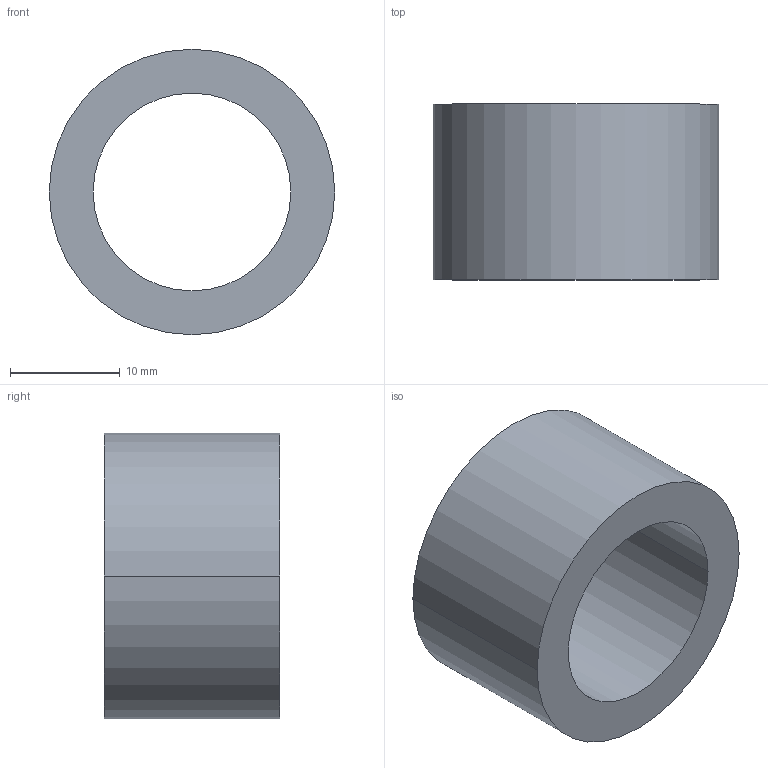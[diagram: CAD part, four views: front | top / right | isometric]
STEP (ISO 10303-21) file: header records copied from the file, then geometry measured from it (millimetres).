
FILE_DESCRIPTION (( 'STEP AP203' ), '1' );
FILE_NAME ('30800.WPP26F18.0.step', '2019-01-23T22:46:13', ( '' ), ( '' ), 'SwSTEP 2.0', 'SolidWorks 2017', '' );
FILE_SCHEMA (( 'CONFIG_CONTROL_DESIGN' ));
Length unit declared in the file: millimetre
Products named in the file (1): 30800.WPP26F18.0
Bounding box: 26 x 16 x 26 mm (x, y, z)
Volume: 4372.4 mm3; surface area: 2717.8 mm2
Topology: 1 solids, 1 shells, 8 faces, 16 edges, 10 vertices
Faces by surface type: cylinder 4, torus 2, plane 2
Entity records: 297 total; most frequent: DIRECTION 46, CARTESIAN_POINT 35, ORIENTED_EDGE 32, AXIS2_PLACEMENT_3D 21, EDGE_CURVE 16, CIRCLE 12, EDGE_LOOP 10, VERTEX_POINT 10
